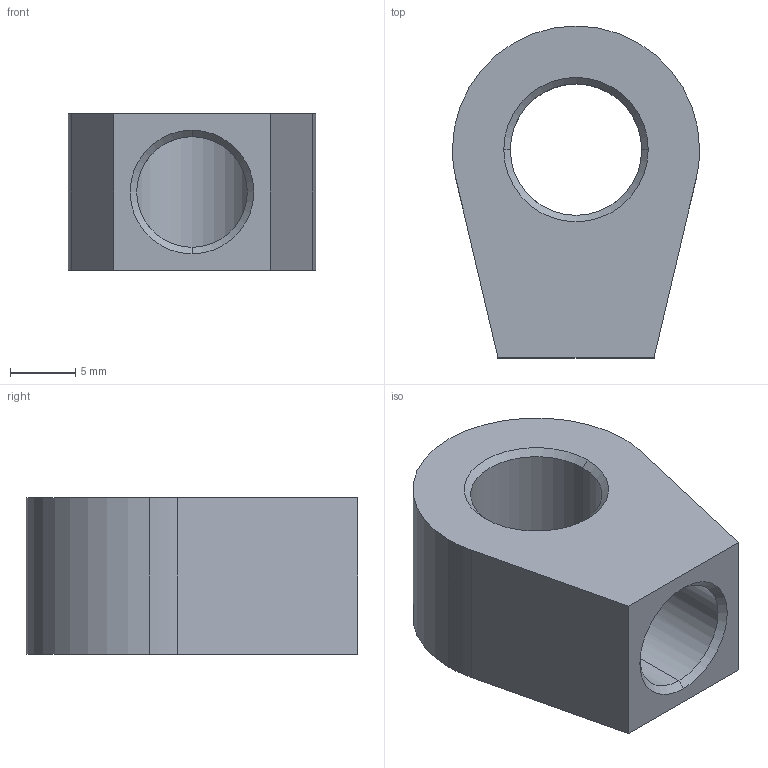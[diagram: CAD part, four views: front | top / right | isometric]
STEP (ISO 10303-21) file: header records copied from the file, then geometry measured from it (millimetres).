
FILE_DESCRIPTION (( 'STEP AP214' ), '1' );
FILE_NAME ('18.09L16ZAMAC.STEP', '2017-11-14T10:27:08', ( '' ), ( '' ), 'SwSTEP 2.0', 'SolidWorks 2016', '' );
FILE_SCHEMA (( 'AUTOMOTIVE_DESIGN' ));
Length unit declared in the file: millimetre
Products named in the file (1): 18.09L16ZAMAC
Bounding box: 19 x 25.5 x 12 mm (x, y, z)
Volume: 3099.5 mm3; surface area: 2078.1 mm2
Topology: 1 solids, 1 shells, 18 faces, 42 edges, 26 vertices
Faces by surface type: cylinder 7, cone 6, plane 5
Entity records: 634 total; most frequent: CARTESIAN_POINT 167, DIRECTION 96, ORIENTED_EDGE 84, EDGE_CURVE 42, AXIS2_PLACEMENT_3D 37, VERTEX_POINT 26, LINE 22, EDGE_LOOP 22
